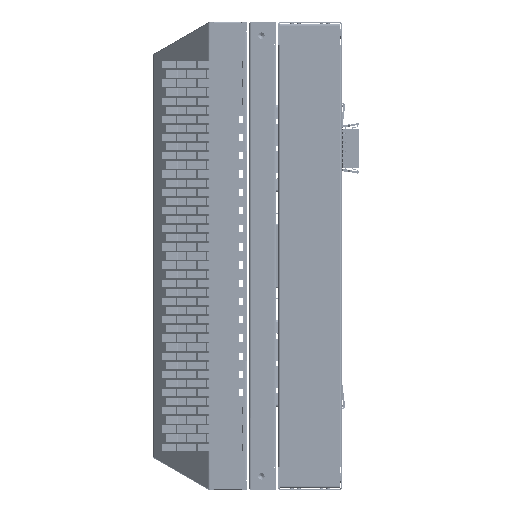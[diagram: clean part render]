
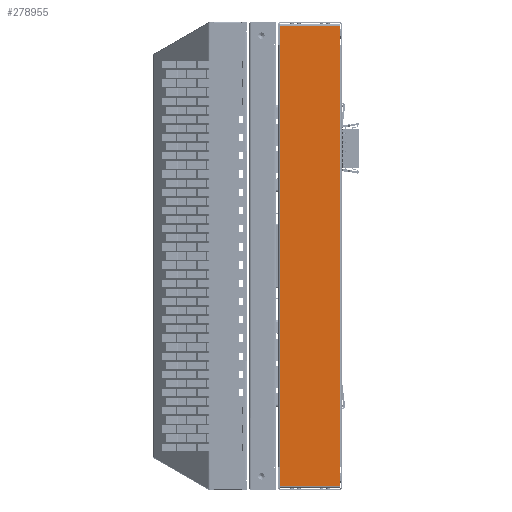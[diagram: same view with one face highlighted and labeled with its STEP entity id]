
A CAD part, left-side view. The second image highlights one B-rep face of the part: STEP entity #278955.
In plain terms, the highlighted planar face has unit normal (-1, 0, 0).
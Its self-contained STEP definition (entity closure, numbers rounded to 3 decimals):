
#277841=DIRECTION('',(0.,0.,1.));
#277842=VECTOR('',#277841,463.);
#277843=CARTESIAN_POINT('',(-25.,-32.5,-231.5));
#277844=LINE('',#277843,#277842);
#277913=DIRECTION('',(0.,0.866,-0.5));
#277914=VECTOR('',#277913,0.693);
#277915=CARTESIAN_POINT('',(-25.,-33.1,231.846));
#277916=LINE('',#277915,#277914);
#277917=DIRECTION('',(0.,-0.866,-0.5));
#277918=VECTOR('',#277917,0.693);
#277919=CARTESIAN_POINT('',(-25.,-32.5,-231.5));
#277920=LINE('',#277919,#277918);
#277921=DIRECTION('',(0.,-0.866,0.5));
#277922=VECTOR('',#277921,0.693);
#277923=CARTESIAN_POINT('',(-25.,33.1,-231.846));
#277924=LINE('',#277923,#277922);
#277925=DIRECTION('',(0.,0.866,0.5));
#277926=VECTOR('',#277925,0.693);
#277927=CARTESIAN_POINT('',(-25.,32.5,231.5));
#277928=LINE('',#277927,#277926);
#277933=DIRECTION('',(0.,0.,1.));
#277934=VECTOR('',#277933,20.654);
#277935=CARTESIAN_POINT('',(-25.,-33.1,-252.5));
#277936=LINE('',#277935,#277934);
#278079=DIRECTION('',(0.,0.,-1.));
#278080=VECTOR('',#278079,20.654);
#278081=CARTESIAN_POINT('',(-25.,33.1,-231.846));
#278082=LINE('',#278081,#278080);
#278101=DIRECTION('',(0.,0.,-1.));
#278102=VECTOR('',#278101,463.);
#278103=CARTESIAN_POINT('',(-25.,32.5,231.5));
#278104=LINE('',#278103,#278102);
#278227=DIRECTION('',(0.,0.,-1.));
#278228=VECTOR('',#278227,20.654);
#278229=CARTESIAN_POINT('',(-25.,33.1,252.5));
#278230=LINE('',#278229,#278228);
#278373=DIRECTION('',(0.,0.,1.));
#278374=VECTOR('',#278373,20.654);
#278375=CARTESIAN_POINT('',(-25.,-33.1,231.846));
#278376=LINE('',#278375,#278374);
#278389=DIRECTION('',(0.,1.,0.));
#278390=VECTOR('',#278389,66.2);
#278391=CARTESIAN_POINT('',(-25.,-33.1,252.5));
#278392=LINE('',#278391,#278390);
#278417=DIRECTION('',(0.,-1.,0.));
#278418=VECTOR('',#278417,66.2);
#278419=CARTESIAN_POINT('',(-25.,33.1,-252.5));
#278420=LINE('',#278419,#278418);
#278541=CARTESIAN_POINT('',(-25.,-32.5,231.5));
#278542=VERTEX_POINT('',#278541);
#278547=CARTESIAN_POINT('',(-25.,-32.5,-231.5));
#278548=VERTEX_POINT('',#278547);
#278573=CARTESIAN_POINT('',(-25.,-33.1,231.846));
#278574=VERTEX_POINT('',#278573);
#278575=CARTESIAN_POINT('',(-25.,-33.1,-231.846));
#278576=VERTEX_POINT('',#278575);
#278577=CARTESIAN_POINT('',(-25.,-33.1,-252.5));
#278578=VERTEX_POINT('',#278577);
#278579=CARTESIAN_POINT('',(-25.,33.1,-252.5));
#278580=VERTEX_POINT('',#278579);
#278581=CARTESIAN_POINT('',(-25.,33.1,-231.846));
#278582=VERTEX_POINT('',#278581);
#278583=CARTESIAN_POINT('',(-25.,32.5,-231.5));
#278584=VERTEX_POINT('',#278583);
#278585=CARTESIAN_POINT('',(-25.,32.5,231.5));
#278586=VERTEX_POINT('',#278585);
#278587=CARTESIAN_POINT('',(-25.,33.1,231.846));
#278588=VERTEX_POINT('',#278587);
#278589=CARTESIAN_POINT('',(-25.,33.1,252.5));
#278590=VERTEX_POINT('',#278589);
#278591=CARTESIAN_POINT('',(-25.,-33.1,252.5));
#278592=VERTEX_POINT('',#278591);
#278926=CARTESIAN_POINT('',(-25.,35.,-252.5));
#278927=DIRECTION('',(-1.,0.,0.));
#278928=DIRECTION('',(0.,-1.,0.));
#278929=AXIS2_PLACEMENT_3D('',#278926,#278927,#278928);
#278930=PLANE('',#278929);
#278931=ORIENTED_EDGE('',*,*,#278917,.T.);
#278932=ORIENTED_EDGE('',*,*,#278832,.F.);
#278934=ORIENTED_EDGE('',*,*,#278933,.T.);
#278936=ORIENTED_EDGE('',*,*,#278935,.F.);
#278938=ORIENTED_EDGE('',*,*,#278937,.F.);
#278940=ORIENTED_EDGE('',*,*,#278939,.F.);
#278942=ORIENTED_EDGE('',*,*,#278941,.T.);
#278944=ORIENTED_EDGE('',*,*,#278943,.F.);
#278946=ORIENTED_EDGE('',*,*,#278945,.T.);
#278948=ORIENTED_EDGE('',*,*,#278947,.F.);
#278950=ORIENTED_EDGE('',*,*,#278949,.F.);
#278952=ORIENTED_EDGE('',*,*,#278951,.F.);
#278953=EDGE_LOOP('',(#278931,#278932,#278934,#278936,#278938,#278940,#278942,
#278944,#278946,#278948,#278950,#278952));
#278954=FACE_OUTER_BOUND('',#278953,.F.);
#278955=ADVANCED_FACE('',(#278954),#278930,.T.);
#278832=EDGE_CURVE('',#278548,#278542,#277844,.T.);
#278917=EDGE_CURVE('',#278574,#278542,#277916,.T.);
#278933=EDGE_CURVE('',#278548,#278576,#277920,.T.);
#278935=EDGE_CURVE('',#278578,#278576,#277936,.T.);
#278937=EDGE_CURVE('',#278580,#278578,#278420,.T.);
#278939=EDGE_CURVE('',#278582,#278580,#278082,.T.);
#278941=EDGE_CURVE('',#278582,#278584,#277924,.T.);
#278943=EDGE_CURVE('',#278586,#278584,#278104,.T.);
#278945=EDGE_CURVE('',#278586,#278588,#277928,.T.);
#278947=EDGE_CURVE('',#278590,#278588,#278230,.T.);
#278949=EDGE_CURVE('',#278592,#278590,#278392,.T.);
#278951=EDGE_CURVE('',#278574,#278592,#278376,.T.);
